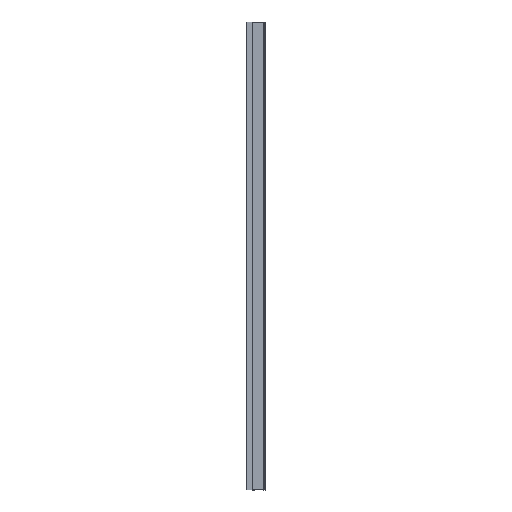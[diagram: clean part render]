
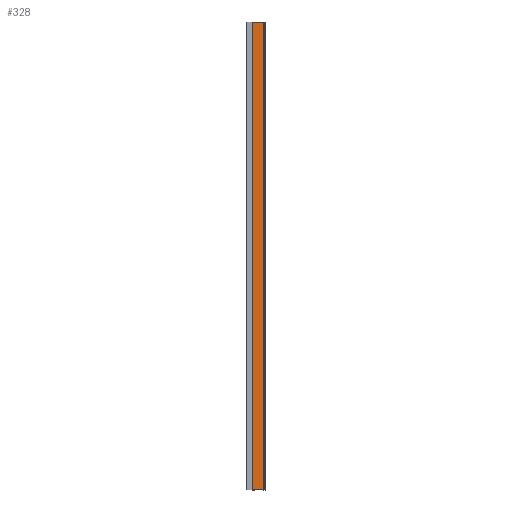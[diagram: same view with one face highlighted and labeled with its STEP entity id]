
A CAD part, left-side view. The second image highlights one B-rep face of the part: STEP entity #328.
In plain terms, the highlighted planar face has unit normal (-1, 0, 0).
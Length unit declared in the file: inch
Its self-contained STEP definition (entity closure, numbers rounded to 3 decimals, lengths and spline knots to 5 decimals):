
#36 = LINE ( 'NONE', #171, #337 ) ;
#55 = EDGE_CURVE ( 'NONE', #522, #778, #356, .T. ) ;
#105 = CARTESIAN_POINT ( 'NONE',  ( 0., -2.84856, 120. ) ) ;
#131 = LINE ( 'NONE', #574, #290 ) ;
#145 = DIRECTION ( 'NONE',  ( 1., 0., 0. ) ) ;
#151 = CARTESIAN_POINT ( 'NONE',  ( 0., 0.15144, 120. ) ) ;
#171 = CARTESIAN_POINT ( 'NONE',  ( 0., 0.15144, 120. ) ) ;
#186 = DIRECTION ( 'NONE',  ( 0., -1., 0. ) ) ;
#214 = CARTESIAN_POINT ( 'NONE',  ( 0., 0.15144, 120. ) ) ;
#215 = CARTESIAN_POINT ( 'NONE',  ( 0., 0.15144, 0. ) ) ;
#217 = DIRECTION ( 'NONE',  ( 0., -1., 0. ) ) ;
#229 = EDGE_CURVE ( 'NONE', #520, #778, #295, .T. ) ;
#235 = ORIENTED_EDGE ( 'NONE', *, *, #340, .F. ) ;
#290 = VECTOR ( 'NONE', #217, 39.37008 ) ;
#295 = LINE ( 'NONE', #105, #785 ) ;
#328 = ADVANCED_FACE ( 'NONE', ( #441 ), #336, .F. ) ;
#336 = PLANE ( 'NONE',  #654 ) ;
#337 = VECTOR ( 'NONE', #709, 39.37008 ) ;
#340 = EDGE_CURVE ( 'NONE', #525, #520, #131, .T. ) ;
#356 = LINE ( 'NONE', #605, #503 ) ;
#360 = EDGE_LOOP ( 'NONE', ( #514, #601, #235, #791 ) ) ;
#441 = FACE_OUTER_BOUND ( 'NONE', #360, .T. ) ;
#451 = DIRECTION ( 'NONE',  ( 0., 0., -1. ) ) ;
#457 = CARTESIAN_POINT ( 'NONE',  ( 0., -2.84856, 120. ) ) ;
#503 = VECTOR ( 'NONE', #186, 39.37008 ) ;
#510 = EDGE_CURVE ( 'NONE', #525, #522, #36, .T. ) ;
#514 = ORIENTED_EDGE ( 'NONE', *, *, #55, .T. ) ;
#520 = VERTEX_POINT ( 'NONE', #457 ) ;
#522 = VERTEX_POINT ( 'NONE', #215 ) ;
#525 = VERTEX_POINT ( 'NONE', #151 ) ;
#574 = CARTESIAN_POINT ( 'NONE',  ( 0., 0.15144, 120. ) ) ;
#601 = ORIENTED_EDGE ( 'NONE', *, *, #229, .F. ) ;
#605 = CARTESIAN_POINT ( 'NONE',  ( 0., 0.15144, 0. ) ) ;
#654 = AXIS2_PLACEMENT_3D ( 'NONE', #214, #145, #700 ) ;
#700 = DIRECTION ( 'NONE',  ( 0., 1., 0. ) ) ;
#709 = DIRECTION ( 'NONE',  ( 0., 0., -1. ) ) ;
#778 = VERTEX_POINT ( 'NONE', #792 ) ;
#785 = VECTOR ( 'NONE', #451, 39.37008 ) ;
#791 = ORIENTED_EDGE ( 'NONE', *, *, #510, .T. ) ;
#792 = CARTESIAN_POINT ( 'NONE',  ( 0., -2.84856, 0. ) ) ;
